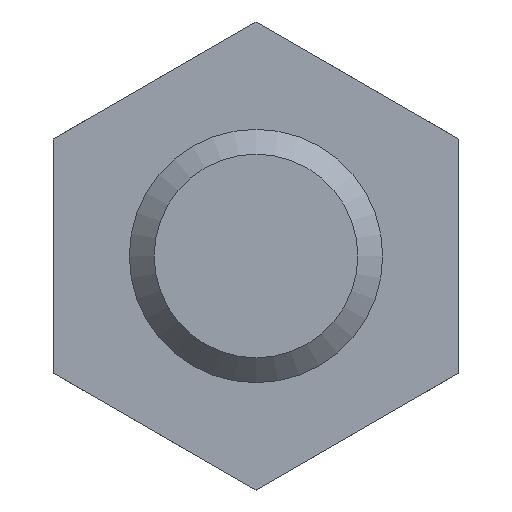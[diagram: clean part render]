
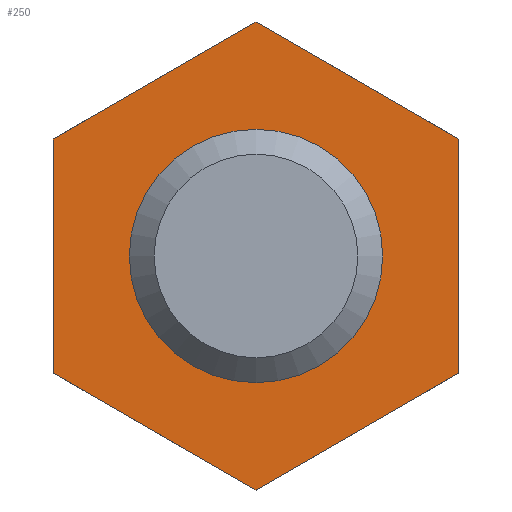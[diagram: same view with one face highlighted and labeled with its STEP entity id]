
A CAD part, front view. The second image highlights one B-rep face of the part: STEP entity #250.
In plain terms, the highlighted planar face has unit normal (0, -1, 0).
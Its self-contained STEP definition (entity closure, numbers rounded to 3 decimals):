
#14=LINE($,#421,#26);
#17=LINE($,#426,#29);
#19=LINE($,#430,#31);
#21=LINE($,#435,#33);
#23=LINE($,#438,#35);
#24=LINE($,#440,#36);
#26=VECTOR($,#322,4.619);
#29=VECTOR($,#327,4.619);
#31=VECTOR($,#331,4.619);
#33=VECTOR($,#335,4.619);
#35=VECTOR($,#339,4.619);
#36=VECTOR($,#342,4.619);
#56=PLANE($,#279);
#61=FACE_BOUND($,#96,.T.);
#62=FACE_BOUND($,#97,.T.);
#96=EDGE_LOOP($,(#215));
#97=EDGE_LOOP($,(#216,#217,#218,#219,#220,#221));
#101=CIRCLE($,#259,2.5);
#110=VERTEX_POINT($,#354);
#123=VERTEX_POINT($,#418);
#124=VERTEX_POINT($,#420);
#125=VERTEX_POINT($,#424);
#126=VERTEX_POINT($,#428);
#127=VERTEX_POINT($,#432);
#128=VERTEX_POINT($,#434);
#131=EDGE_CURVE($,#110,#110,#101,.T.);
#151=EDGE_CURVE($,#124,#123,#14,.T.);
#154=EDGE_CURVE($,#123,#125,#17,.T.);
#156=EDGE_CURVE($,#125,#126,#19,.T.);
#158=EDGE_CURVE($,#128,#127,#21,.T.);
#160=EDGE_CURVE($,#127,#124,#23,.T.);
#161=EDGE_CURVE($,#126,#128,#24,.T.);
#215=ORIENTED_EDGE($,*,*,#131,.T.);
#216=ORIENTED_EDGE($,*,*,#161,.T.);
#217=ORIENTED_EDGE($,*,*,#158,.T.);
#218=ORIENTED_EDGE($,*,*,#160,.T.);
#219=ORIENTED_EDGE($,*,*,#151,.T.);
#220=ORIENTED_EDGE($,*,*,#154,.T.);
#221=ORIENTED_EDGE($,*,*,#156,.T.);
#250=ADVANCED_FACE($,(#61,#62),#56,.T.);
#259=AXIS2_PLACEMENT_3D($,#355,#291,#292);
#279=AXIS2_PLACEMENT_3D($,#441,#343,#344);
#291=DIRECTION('center_axis',(0.,1.,0.));
#292=DIRECTION('ref_axis',(-1.,0.,0.));
#322=DIRECTION($,(-0.866,0.,0.5));
#327=DIRECTION($,(-0.866,0.,-0.5));
#331=DIRECTION($,(0.,0.,-1.));
#335=DIRECTION($,(0.866,0.,0.5));
#339=DIRECTION($,(0.,0.,1.));
#342=DIRECTION($,(0.866,0.,-0.5));
#343=DIRECTION('center_axis',(0.,-1.,0.));
#344=DIRECTION('ref_axis',(0.,0.,-1.));
#354=CARTESIAN_POINT('',(2.5,0.,0.));
#355=CARTESIAN_POINT('Origin',(0.,0.,0.));
#418=CARTESIAN_POINT('',(0.,0.,4.619));
#420=CARTESIAN_POINT('',(4.,0.,2.309));
#421=CARTESIAN_POINT($,(4.,0.,2.309));
#424=CARTESIAN_POINT('',(-4.,0.,2.309));
#426=CARTESIAN_POINT($,(0.,0.,4.619));
#428=CARTESIAN_POINT('',(-4.,0.,-2.309));
#430=CARTESIAN_POINT($,(-4.,0.,2.309));
#432=CARTESIAN_POINT('',(4.,0.,-2.309));
#434=CARTESIAN_POINT('',(0.,0.,-4.619));
#435=CARTESIAN_POINT($,(0.,0.,-4.619));
#438=CARTESIAN_POINT($,(4.,0.,-2.309));
#440=CARTESIAN_POINT($,(-4.,0.,-2.309));
#441=CARTESIAN_POINT('Origin',(0.,0.,0.));
